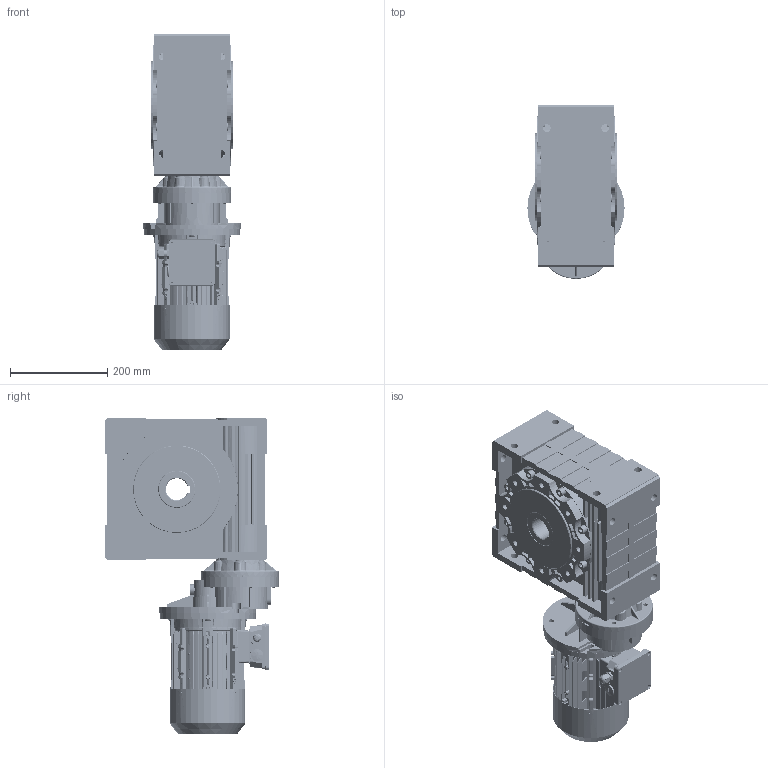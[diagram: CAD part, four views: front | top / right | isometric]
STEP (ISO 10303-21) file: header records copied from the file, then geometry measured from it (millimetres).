
FILE_DESCRIPTION (( 'STEP AP214' ), '1' );
FILE_NAME ('CMRV130_PC080_MX3-80.STEP', '2018-07-05T10:56:35', ( '' ), ( '' ), 'SwSTEP 2.0', 'SolidWorks 2012', '' );
FILE_SCHEMA (( 'AUTOMOTIVE_DESIGN' ));
Length unit declared in the file: millimetre
Products named in the file (31): 130-112B14-20180531; GBú»T 70ú«1-2000-+-¨¢ÃÈ¦Í¨-À-¦ÂñM8í-20(8ú«8+Â); 0201111101002_1; 5; 4; 1; PC080_MX3-80; MX3-80_B5; IE 3 80 Plug; Flansch-80_IMB5; IE3 80 Cable glands; IE3 80 terminal box cover; IE3 80 Gasket for T-box(base); IE3 80 Teriminal box base; IE3 80 Fan cover; IE3 80 Shaft; IE3 80 Shield; IE3 80 Casing; PC080-A08_Ø28.LK130; ã¢+³A6í-6í-36; GBú»T13871ú«1-2007¦¢ð++_ÀÔ+ª30í-55í-8_B1; -+-¨¢ÃÈ¦Í¨-À-¦ÂñM8í-22; Ë-ÀÔ-30í-47í-7_B1; PC90ﾂ-ｩﾃ; -ﾟﾎﾚ+ｦ; -ﾟ; -õ+ÙÍßÎÚ+¦; +_ÀÔ©Ã-32í-7; 戌俓; PC90火耳; CMRV130_PC080_MX3-80
Assembly tree (39 placements, depth 5):
  CMRV130_PC080_MX3-80
    PC080_MX3-80
      PC080-A08_Ø28.LK130
        PC90火耳
        -õ+ÙÍßÎÚ+¦
          戌俓
          +_ÀÔ©Ã-32í-7
        -ﾟﾎﾚ+ｦ
          -ﾟ
        PC90ﾂ-ｩﾃ
        Ë-ÀÔ-30í-47í-7_B1
        -+-¨¢ÃÈ¦Í¨-À-¦ÂñM8í-22  x5
        GBú»T13871ú«1-2007¦¢ð++_ÀÔ+ª30í-55í-8_B1
        ã¢+³A6í-6í-36
      MX3-80_B5
        IE3 80 Casing
        IE3 80 Shield
        IE3 80 Shaft
        IE3 80 Fan cover
        IE3 80 Teriminal box base
        IE3 80 Gasket for T-box(base)
        IE3 80 terminal box cover
        IE3 80 Cable glands
        Flansch-80_IMB5
        IE 3 80 Plug
    130-112B14-20180531
      1
      4
      5
      0201111101002_1
      GBú»T 70ú«1-2000-+-¨¢ÃÈ¦Í¨-À-¦ÂñM8í-20(8ú«8+Â)  x6
Bounding box: 200 x 357.5 x 652.5 mm (x, y, z)
Volume: 15049666.8 mm3; surface area: 1811294.9 mm2
Topology: 33 solids, 49 shells, 6764 faces, 16955 edges, 10413 vertices
Faces by surface type: plane 2007, cylinder 1969, bspline 1521, cone 775, torus 341, sphere 151
Entity records: 254875 total; most frequent: CARTESIAN_POINT 107465, ORIENTED_EDGE 31240, DIRECTION 26010, EDGE_CURVE 15620, AXIS2_PLACEMENT_3D 9778, VERTEX_POINT 9702, EDGE_LOOP 6834, LINE 6454
